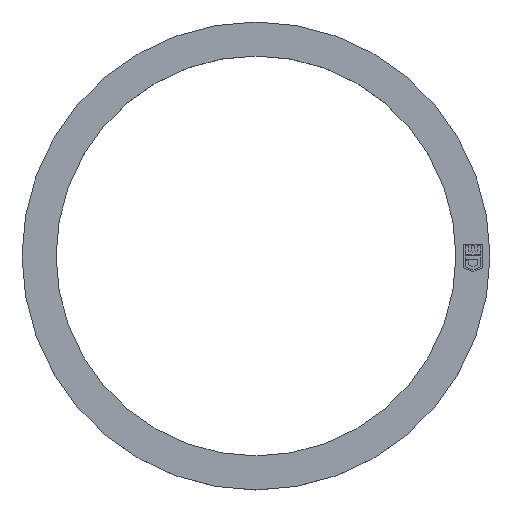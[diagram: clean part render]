
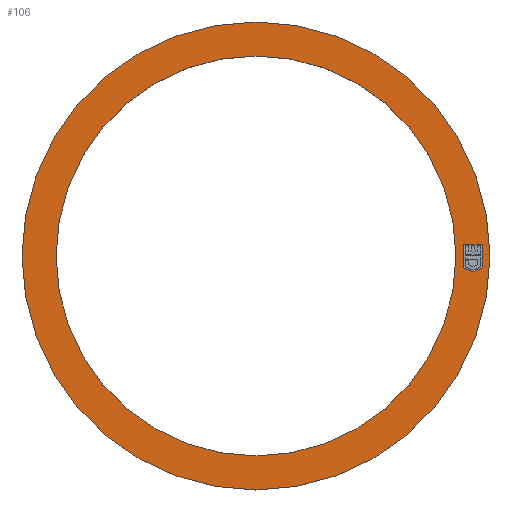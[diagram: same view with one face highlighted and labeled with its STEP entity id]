
A CAD part, top view. The second image highlights one B-rep face of the part: STEP entity #106.
In plain terms, the highlighted planar face has unit normal (0, 0, 1).
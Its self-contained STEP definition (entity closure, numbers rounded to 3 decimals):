
#56 = EDGE_CURVE ( 'NONE', #129, #88, #434, .T. ) ;
#88 = VERTEX_POINT ( 'NONE', #374 ) ;
#92 = ORIENTED_EDGE ( 'NONE', *, *, #93, .T. ) ;
#93 = EDGE_CURVE ( 'NONE', #99, #117, #373, .T. ) ;
#98 = EDGE_CURVE ( 'NONE', #140, #99, #824, .T. ) ;
#99 = VERTEX_POINT ( 'NONE', #815 ) ;
#100 = VERTEX_POINT ( 'NONE', #814 ) ;
#101 = EDGE_CURVE ( 'NONE', #100, #140, #813, .T. ) ;
#102 = ORIENTED_EDGE ( 'NONE', *, *, #101, .T. ) ;
#103 = EDGE_LOOP ( 'NONE', ( #121, #141, #102, #139, #92 ) ) ;
#106 = ADVANCED_FACE ( 'NONE', ( #805, #804, #803 ), #802, .T. ) ;
#107 = ORIENTED_EDGE ( 'NONE', *, *, #56, .F. ) ;
#112 = VERTEX_POINT ( 'NONE', #763 ) ;
#113 = EDGE_CURVE ( 'NONE', #112, #128, #762, .T. ) ;
#117 = VERTEX_POINT ( 'NONE', #756 ) ;
#118 = ORIENTED_EDGE ( 'NONE', *, *, #113, .T. ) ;
#119 = EDGE_CURVE ( 'NONE', #88, #129, #755, .T. ) ;
#120 = EDGE_LOOP ( 'NONE', ( #107, #144 ) ) ;
#121 = ORIENTED_EDGE ( 'NONE', *, *, #122, .T. ) ;
#122 = EDGE_CURVE ( 'NONE', #117, #138, #750, .T. ) ;
#128 = VERTEX_POINT ( 'NONE', #740 ) ;
#129 = VERTEX_POINT ( 'NONE', #739 ) ;
#138 = VERTEX_POINT ( 'NONE', #769 ) ;
#139 = ORIENTED_EDGE ( 'NONE', *, *, #98, .T. ) ;
#140 = VERTEX_POINT ( 'NONE', #768 ) ;
#141 = ORIENTED_EDGE ( 'NONE', *, *, #142, .T. ) ;
#142 = EDGE_CURVE ( 'NONE', #138, #100, #703, .T. ) ;
#143 = EDGE_LOOP ( 'NONE', ( #145, #118 ) ) ;
#144 = ORIENTED_EDGE ( 'NONE', *, *, #119, .F. ) ;
#145 = ORIENTED_EDGE ( 'NONE', *, *, #146, .T. ) ;
#146 = EDGE_CURVE ( 'NONE', #128, #112, #699, .T. ) ;
#373 = LINE ( 'NONE', #829, #828 ) ;
#374 = CARTESIAN_POINT ( 'NONE',  ( 23.5, 0., 3. ) ) ;
#429 = DIRECTION ( 'NONE',  ( 1., 0., 0. ) ) ;
#430 = DIRECTION ( 'NONE',  ( 0., 0., 1. ) ) ;
#431 = CARTESIAN_POINT ( 'NONE',  ( 0., 0., 3. ) ) ;
#432 = AXIS2_PLACEMENT_3D ( 'NONE', #431, #430, #429 ) ;
#434 = CIRCLE ( 'NONE', #432, 23.5 ) ;
#695 = DIRECTION ( 'NONE',  ( 1., 0., 0. ) ) ;
#696 = DIRECTION ( 'NONE',  ( 0., 0., 1. ) ) ;
#697 = CARTESIAN_POINT ( 'NONE',  ( 0., 0., 3. ) ) ;
#698 = AXIS2_PLACEMENT_3D ( 'NONE', #697, #696, #695 ) ;
#699 = CIRCLE ( 'NONE', #698, 27.5 ) ;
#700 = DIRECTION ( 'NONE',  ( -0.924, 0.383, 0. ) ) ;
#701 = VECTOR ( 'NONE', #700, 1000. ) ;
#702 = CARTESIAN_POINT ( 'NONE',  ( 25.5, -1.847, 3. ) ) ;
#703 = LINE ( 'NONE', #702, #701 ) ;
#739 = CARTESIAN_POINT ( 'NONE',  ( -23.5, 0., 3. ) ) ;
#740 = CARTESIAN_POINT ( 'NONE',  ( -27.5, 0., 3. ) ) ;
#747 = DIRECTION ( 'NONE',  ( -0.924, -0.383, 0. ) ) ;
#748 = VECTOR ( 'NONE', #747, 1000. ) ;
#749 = CARTESIAN_POINT ( 'NONE',  ( 25.5, -1.847, 3. ) ) ;
#750 = LINE ( 'NONE', #749, #748 ) ;
#751 = DIRECTION ( 'NONE',  ( 1., 0., 0. ) ) ;
#752 = DIRECTION ( 'NONE',  ( 0., 0., 1. ) ) ;
#753 = CARTESIAN_POINT ( 'NONE',  ( 0., 0., 3. ) ) ;
#754 = AXIS2_PLACEMENT_3D ( 'NONE', #753, #752, #751 ) ;
#755 = CIRCLE ( 'NONE', #754, 23.5 ) ;
#756 = CARTESIAN_POINT ( 'NONE',  ( 26.595, -1.393, 3. ) ) ;
#758 = DIRECTION ( 'NONE',  ( 1., 0., 0. ) ) ;
#759 = DIRECTION ( 'NONE',  ( 0., 0., 1. ) ) ;
#760 = CARTESIAN_POINT ( 'NONE',  ( 0., 0., 3. ) ) ;
#761 = AXIS2_PLACEMENT_3D ( 'NONE', #760, #759, #758 ) ;
#762 = CIRCLE ( 'NONE', #761, 27.5 ) ;
#763 = CARTESIAN_POINT ( 'NONE',  ( 27.5, 0., 3. ) ) ;
#768 = CARTESIAN_POINT ( 'NONE',  ( 24.405, 1.393, 3. ) ) ;
#769 = CARTESIAN_POINT ( 'NONE',  ( 25.5, -1.847, 3. ) ) ;
#798 = DIRECTION ( 'NONE',  ( 1., 0., 0. ) ) ;
#799 = DIRECTION ( 'NONE',  ( 0., 0., 1. ) ) ;
#800 = CARTESIAN_POINT ( 'NONE',  ( 0., 0., 3. ) ) ;
#801 = AXIS2_PLACEMENT_3D ( 'NONE', #800, #799, #798 ) ;
#802 = PLANE ( 'NONE',  #801 ) ;
#803 = FACE_BOUND ( 'NONE', #103, .T. ) ;
#804 = FACE_OUTER_BOUND ( 'NONE', #143, .T. ) ;
#805 = FACE_BOUND ( 'NONE', #120, .T. ) ;
#810 = DIRECTION ( 'NONE',  ( 0., 1., 0. ) ) ;
#811 = VECTOR ( 'NONE', #810, 1000. ) ;
#812 = CARTESIAN_POINT ( 'NONE',  ( 24.405, -1.393, 3. ) ) ;
#813 = LINE ( 'NONE', #812, #811 ) ;
#814 = CARTESIAN_POINT ( 'NONE',  ( 24.405, -1.393, 3. ) ) ;
#815 = CARTESIAN_POINT ( 'NONE',  ( 26.595, 1.393, 3. ) ) ;
#816 = DIRECTION ( 'NONE',  ( 1., 0., 0. ) ) ;
#817 = VECTOR ( 'NONE', #816, 1000. ) ;
#818 = CARTESIAN_POINT ( 'NONE',  ( 24.405, 1.393, 3. ) ) ;
#824 = LINE ( 'NONE', #818, #817 ) ;
#827 = DIRECTION ( 'NONE',  ( 0., -1., 0. ) ) ;
#828 = VECTOR ( 'NONE', #827, 1000. ) ;
#829 = CARTESIAN_POINT ( 'NONE',  ( 26.595, 1.393, 3. ) ) ;
